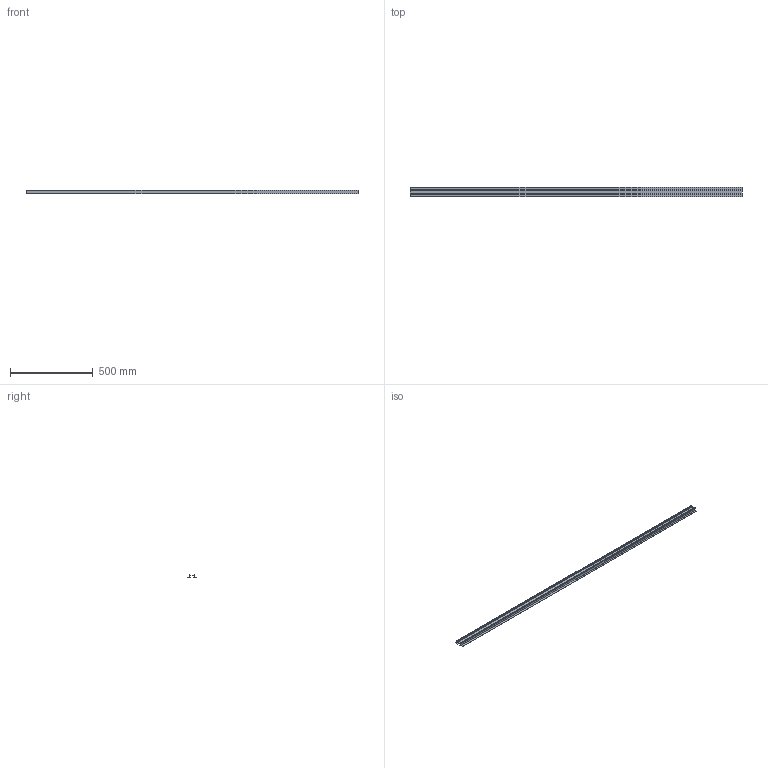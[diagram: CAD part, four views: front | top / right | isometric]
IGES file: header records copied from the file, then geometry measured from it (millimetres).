
Start section: SolidWorks IGES file using NURBS representation for surfaces
Global section: file name: Z:\Modele 3D_WWW\_KOLEKCJE WWW\PROFILE SYSTEM\PROFILE-RECESSED-TRACK-2M-9014-9015\PROFILE-RECESSED-TRACK-2M-9014-9015.IGS; native system: SolidWorks 2021; preprocessor: SolidWorks 2021; author: gabriela.tworek; date: 220215.095049; units: millimetre
Bounding box: 2000 x 60 x 21.2 mm (x, y, z)
Surface area: 494324.1 mm2 (no closed solid volume)
Topology: 0 solids, 0 shells, 41 faces, 234 edges, 234 vertices
Faces by surface type: bspline 41
